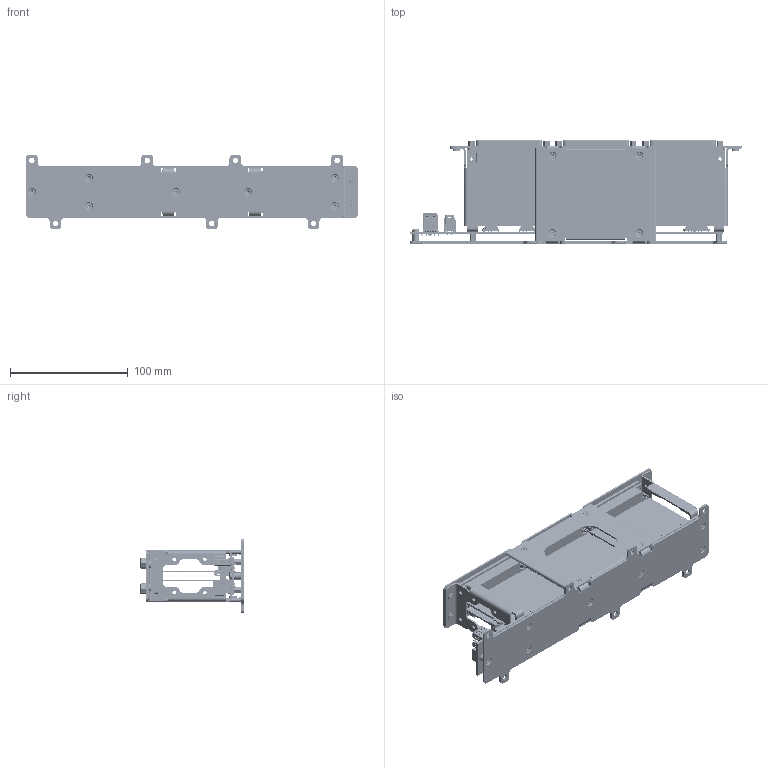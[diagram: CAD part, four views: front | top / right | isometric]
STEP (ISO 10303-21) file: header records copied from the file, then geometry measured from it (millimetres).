
FILE_DESCRIPTION((''),'2;1');
FILE_NAME('ASSY_TS_IN_FIXTURE_ASM','2022-06-23T09:30:04',('kleong'),(''),'CREO PARAMETRIC BY PTC INC, 2021063','CREO PARAMETRIC BY PTC INC, 2021063','');
FILE_SCHEMA(('AUTOMOTIVE_DESIGN { 1 0 10303 214 1 1 1 1 }'));
Products named in the file (48): PCB_TS_BACKPLANE_IN_FIXTURE; FS5_30_04_0_TH__SOCKET; C_304__30; FS5_30_04_0_L_DV_TH_K__TR_ASM; FS5_15_04_0_TH__SOCKET; C_304__15; FS5_15_04_0_L_DV_TH_K__TR_AF0_ASM; FS5_15_04_0_L_DV_TH_K__TR_AF1_ASM; FS5_15_04_0_L_DV_TH_K__TR_AF2_ASM; FS5_15_04_0_L_DV_TH_K__TR_AF3_ASM; FS5_15_04_0_L_DV_TH_K__TR_AF4_ASM; 1722991204; CONN_USB_A_VT_SAMTEC_RETENTION; CONN_USB_VERTICAL_AMP_5788336-1; CCA_TS_BACKPLANE_IN_FIXTURE_ASM; PCB_TS_GPIO_MODULE; KYCON_K22X-C37P-N; FT5_30_01___TEMINAL; T_1M84_30__01; FT5_30_01_L_RA_K__TR_ASM; SO_187HEX_MF_440X01875_SS_0; CCA_TS_GPIO_MODULE_ASM; PCB_TS_IO_MODULE; FT5_15_01___TEMINAL; T_1M84_15__01; FT5_15_01_L_RA_K__TR_AF0_ASM; CCA_TS_IO_MODULE_AF0_ASM; FT5_15_01_L_RA_K__TR_AF1_ASM; CCA_TS_IO_MODULE_AF1_ASM; FT5_15_01_L_RA_K__TR_AF2_ASM; CCA_TS_IO_MODULE_AF2_ASM; FT5_15_01_L_RA_K__TR_AF3_ASM; CCA_TS_IO_MODULE_AF3_ASM; FT5_15_01_L_RA_K__TR_AF4_ASM; CCA_TS_IO_MODULE_AF4_ASM; TS_SIDE_PANEL_IN_FIXTURE; S-M3-2_ZI; ASSY_TS_SIDE_PANEL_IN_FIXTURE_ASM; TS_FRONT_PANEL_IN_FIXTURE; ASSY_TS_FRONT_PANEL_IN_FIXTURE_ASM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
Assembly tree (127 placements, depth 4):
  ASSY_TS_IN_FIXTURE_ASM
    CCA_TS_BACKPLANE_IN_FIXTURE_ASM
      PCB_TS_BACKPLANE_IN_FIXTURE
      FS5_30_04_0_L_DV_TH_K__TR_ASM
        FS5_30_04_0_TH__SOCKET
        C_304__30
      FS5_15_04_0_L_DV_TH_K__TR_AF0_ASM
        FS5_15_04_0_TH__SOCKET
        C_304__15
      FS5_15_04_0_L_DV_TH_K__TR_AF1_ASM
        FS5_15_04_0_TH__SOCKET
        C_304__15
      FS5_15_04_0_L_DV_TH_K__TR_AF2_ASM
        FS5_15_04_0_TH__SOCKET
        C_304__15
      FS5_15_04_0_L_DV_TH_K__TR_AF3_ASM
        FS5_15_04_0_TH__SOCKET
        C_304__15
      FS5_15_04_0_L_DV_TH_K__TR_AF4_ASM
        FS5_15_04_0_TH__SOCKET
        C_304__15
      1722991204  x2
      CONN_USB_A_VT_SAMTEC_RETENTION  x2
      CONN_USB_VERTICAL_AMP_5788336-1
    CCA_TS_GPIO_MODULE_ASM
      PCB_TS_GPIO_MODULE
      KYCON_K22X-C37P-N
      FT5_30_01_L_RA_K__TR_ASM
        FT5_30_01___TEMINAL
        T_1M84_30__01
      SO_187HEX_MF_440X01875_SS_0  x2
    CCA_TS_IO_MODULE_AF0_ASM
      PCB_TS_IO_MODULE
      KYCON_K22X-C37P-N
      SO_187HEX_MF_440X01875_SS_0  x2
      FT5_15_01_L_RA_K__TR_AF0_ASM
        FT5_15_01___TEMINAL
        T_1M84_15__01
    CCA_TS_IO_MODULE_AF1_ASM
      PCB_TS_IO_MODULE
      KYCON_K22X-C37P-N
      SO_187HEX_MF_440X01875_SS_0  x2
      FT5_15_01_L_RA_K__TR_AF1_ASM
        FT5_15_01___TEMINAL
        T_1M84_15__01
    CCA_TS_IO_MODULE_AF2_ASM
      PCB_TS_IO_MODULE
      KYCON_K22X-C37P-N
      SO_187HEX_MF_440X01875_SS_0  x2
      FT5_15_01_L_RA_K__TR_AF2_ASM
        FT5_15_01___TEMINAL
        T_1M84_15__01
    CCA_TS_IO_MODULE_AF3_ASM
      PCB_TS_IO_MODULE
      KYCON_K22X-C37P-N
      SO_187HEX_MF_440X01875_SS_0  x2
      FT5_15_01_L_RA_K__TR_AF3_ASM
        FT5_15_01___TEMINAL
        T_1M84_15__01
    CCA_TS_IO_MODULE_AF4_ASM
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Bounding box: 282.25 x 87.68 x 63.66 mm (x, y, z)
Volume: 192753.7 mm3; surface area: 241578.6 mm2
Topology: 113 solids, 114 shells, 23658 faces, 68066 edges, 43886 vertices
Faces by surface type: plane 17746, cylinder 4436, cone 530, sphere 458, extrusion 228, bspline 176, torus 84
Entity records: 387635 total; most frequent: CARTESIAN_POINT 60856, ORIENTED_EDGE 53100, DIRECTION 48400, EDGE_CURVE 26552, VECTOR 22514, LINE 22502, PRESENTATION_STYLE_ASSIGNMENT 22324, STYLED_ITEM 21998
